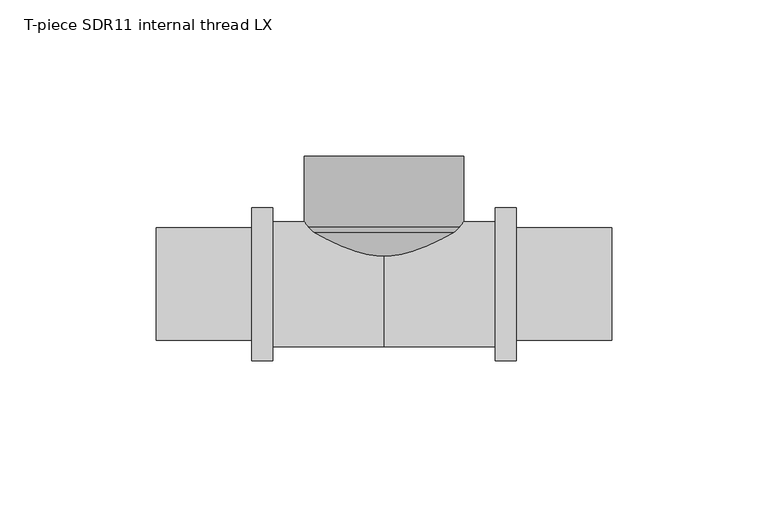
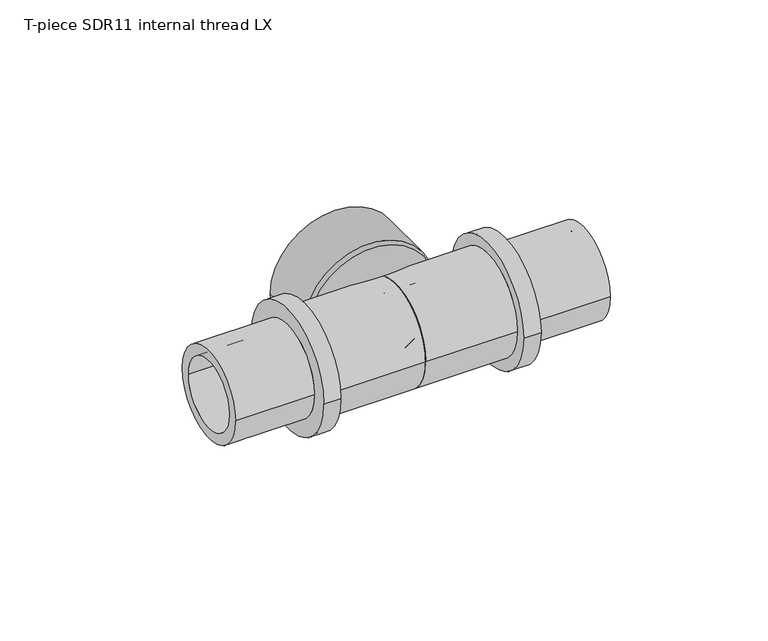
"""IFC4 building model written with IfcOpenShell, lengths in millimetres: pipe fitting geometry, T-piece SDR11 internal thread LX : T-piece LX SDR11 internal LX."""

from ifc_helpers import new_model, si_unit, point, frame, origin, place, context, project, spatial, polyline, circle_curve, ellipse_curve, trimmed, source, transform, mapped, element, save
from ifc_brep_helpers import plane_surface, cylinder_surface, revolved_surface, advanced_brep


def t_piece_sdr11_internal_thread_lx_78944ef6(model_context):
    return source(origin(), model_context, "Body", "AdvancedBrep", [
        advanced_brep(
        [(19.95, 19.45, 0.0), (-19.95, 19.45, 0.0), (-19.95, 41.0, 0.0), (19.95, 41.0, 0.0), (0.5, 0.0, 0.0), (-0.5, 0.0, 0.0), (24.7683856, 16.4195003, 0.0), (-24.7683856, 16.4195003, 0.0), (-8.3488853, 0.0, 0.0), (8.3488853, 0.0, 0.0), (25.5, 18.1857737, 0.0), (-25.5, 18.1857737, 0.0), (25.5, 41.0, 0.0), (-25.5, 41.0, 0.0)],
        [
            (0, 1, circle_curve(frame((0.0, 19.45, 0.0), z_axis=(0.0, -1.0, 0.0), x_axis=(-1.0, 0.0, 0.0)), 19.95)),
            (1, 2),
            (2, 3, circle_curve(frame((0.0, 41.0, 0.0), z_axis=(0.0, 1.0, 0.0), x_axis=(-1.0, 0.0, 0.0)), 19.95)),
            (3, 0),
            (4, 5, circle_curve(frame((0.0, 0.0, 0.0), z_axis=(0.0, -1.0, 0.0), x_axis=(-1.0, 0.0, 0.0)), 0.5)),
            (5, 1),
            (0, 4),
            (6, 7, circle_curve(frame((0.0, 16.4195003, 0.0), z_axis=(0.0, -1.0, 0.0), x_axis=(-1.0, 0.0, 0.0)), 24.7683856)),
            (7, 8),
            (8, 9, circle_curve(frame((0.0, 0.0, 0.0), z_axis=(0.0, 1.0, 0.0), x_axis=(-1.0, 0.0, 0.0)), 8.3488853)),
            (9, 6),
            (10, 11, circle_curve(frame((0.0, 18.1857737, 0.0), z_axis=(0.0, -1.0, 0.0), x_axis=(-1.0, 0.0, 0.0)), 25.5)),
            (11, 7, circle_curve(frame((-19.95, 19.45, 0.0), z_axis=(0.0, 0.0, 1.0), x_axis=(0.0, 1.0, 0.0)), 5.6921673)),
            (6, 10, circle_curve(frame((19.95, 19.45, 0.0), z_axis=(0.0, 0.0, 1.0), x_axis=(0.0, 1.0, 0.0)), 5.6921673)),
            (12, 13, circle_curve(frame((0.0, 41.0, 0.0), z_axis=(0.0, -1.0, 0.0), x_axis=(-1.0, 0.0, 0.0)), 25.5)),
            (13, 11),
            (10, 12),
            (12, 13, circle_curve(frame((0.0, 41.0, 0.0), z_axis=(0.0, 1.0, 0.0), x_axis=(1.0, 0.0, 0.0)), 25.5)),
            (2, 3, circle_curve(frame((0.0, 41.0, 0.0), z_axis=(0.0, -1.0, 0.0), x_axis=(1.0, 0.0, 0.0)), 19.95)),
            (1, 0, circle_curve(frame((0.0, 19.45, 0.0), z_axis=(0.0, -1.0, 0.0), x_axis=(1.0, 0.0, 0.0)), 19.95)),
            (5, 4, circle_curve(frame((0.0, 0.0, 0.0), z_axis=(0.0, -1.0, 0.0), x_axis=(1.0, 0.0, 0.0)), 0.5)),
            (8, 9, circle_curve(frame((0.0, 0.0, 0.0), z_axis=(0.0, -1.0, 0.0), x_axis=(1.0, 0.0, 0.0)), 8.3488853)),
            (7, 6, circle_curve(frame((0.0, 16.4195003, 0.0), z_axis=(0.0, -1.0, 0.0), x_axis=(1.0, 0.0, 0.0)), 24.7683856)),
            (11, 10, circle_curve(frame((0.0, 18.1857737, 0.0), z_axis=(0.0, -1.0, 0.0), x_axis=(1.0, 0.0, 0.0)), 25.5)),
        ],
        [
            revolved_surface(polyline([(-19.95, 41.0, 0.0), (-19.95, 19.45, 0.0)]), (0.0, 0.0, 0.0), (0.0, 1.0, 0.0)),
            revolved_surface(polyline([(-19.95, 19.45, 0.0), (-0.5, 0.0, 0.0)]), (0.0, 0.0, 0.0), (0.0, 1.0, 0.0)),
            revolved_surface(polyline([(-8.3488853, 0.0, 0.0), (-24.7683856, 16.4195003, 0.0)]), (0.0, 0.0, 0.0), (0.0, 1.0, 0.0)),
            revolved_surface(trimmed(ellipse_curve(frame((-19.95, 19.45, 0.0), z_axis=(0.0, 0.0, -1.0), x_axis=(0.0, 1.0, 0.0)), 5.6921673, 5.6921673), [point((-24.7683856, 16.4195003, 0.0))], [point((-25.5, 18.1857737, 0.0))], True, "CARTESIAN"), (0.0, 0.0, 0.0), (0.0, 1.0, 0.0)),
            cylinder_surface(frame((0.0, 0.0, 0.0), z_axis=(0.0, 1.0, 0.0), x_axis=(-1.0, 0.0, 0.0)), 25.5),
            plane_surface(frame((0.0, 41.0, 0.0), z_axis=(0.0, 1.0, 0.0), x_axis=(1.0, 0.0, 0.0))),
            revolved_surface(polyline([(19.95, 41.0, 0.0), (19.95, 19.45, 0.0)]), (0.0, 0.0, 0.0), (0.0, 1.0, 0.0)),
            revolved_surface(polyline([(19.95, 19.45, 0.0), (0.5, 0.0, 0.0)]), (0.0, 0.0, 0.0), (0.0, 1.0, 0.0)),
            plane_surface(frame((0.0, 0.0, 0.0), z_axis=(0.0, -1.0, 0.0), x_axis=(1.0, 0.0, 0.0))),
            revolved_surface(polyline([(8.3488853, 0.0, 0.0), (24.7683856, 16.4195003, 0.0)]), (0.0, 0.0, 0.0), (0.0, 1.0, 0.0)),
            revolved_surface(trimmed(ellipse_curve(frame((19.95, 19.45, 0.0), z_axis=(0.0, 0.0, 1.0), x_axis=(0.0, 1.0, 0.0)), 5.6921673, 5.6921673), [point((24.7683856, 16.4195003, 0.0))], [point((25.5, 18.1857737, 0.0))], True, "CARTESIAN"), (0.0, 0.0, 0.0), (0.0, 1.0, 0.0)),
            cylinder_surface(frame((0.0, 0.0, 0.0), z_axis=(0.0, 1.0, 0.0), x_axis=(1.0, 0.0, 0.0)), 25.5),
        ],
        [
            (0, [[1, 2, 3, 4]]),
            (1, [[5, 6, -1, 7]]),
            (2, [[8, 9, 10, 11]]),
            (3, [[12, 13, -8, 14]]),
            (4, [[15, 16, -12, 17]]),
            (5, [[18, -15], [19, -3]]),
            (6, [[20, -4, -19, -2]]),
            (7, [[21, -7, -20, -6]]),
            (8, [[22, -10], [-21, -5]]),
            (9, [[23, -11, -22, -9]]),
            (10, [[24, -14, -23, -13]]),
            (11, [[-18, -17, -24, -16]]),
        ],
    ),
        advanced_brep(
        [(42.3, 24.5, 0.0), (42.3, -24.5, 0.0), (35.7, -24.5, 0.0), (35.7, 24.5, 0.0), (73.0, 18.0, 0.0), (73.0, -18.0, 0.0), (42.3, -18.0, 0.0), (42.3, 18.0, 0.0), (0.0, 13.75, 0.0), (0.0, -13.75, 0.0), (73.0, -13.75, 0.0), (73.0, 13.75, 0.0), (35.7, 20.0, 0.0), (35.7, -20.0, 0.0), (0.0, -20.0, 0.0), (0.0, 20.0, 0.0)],
        [
            (0, 1, circle_curve(frame((42.3, 0.0, 0.0), z_axis=(-1.0, 0.0, 0.0), x_axis=(0.0, -1.0, 0.0)), 24.5)),
            (1, 2),
            (2, 3, circle_curve(frame((35.7, 0.0, 0.0), z_axis=(1.0, 0.0, 0.0), x_axis=(0.0, -1.0, 0.0)), 24.5)),
            (3, 0),
            (4, 5, circle_curve(frame((73.0, 0.0, 0.0), z_axis=(-1.0, 0.0, 0.0), x_axis=(0.0, -1.0, 0.0)), 18.0)),
            (5, 6),
            (6, 7, circle_curve(frame((42.3, 0.0, 0.0), z_axis=(1.0, 0.0, 0.0), x_axis=(0.0, -1.0, 0.0)), 18.0)),
            (7, 4),
            (8, 9, circle_curve(frame((0.0, 0.0, 0.0), z_axis=(-1.0, 0.0, 0.0), x_axis=(0.0, -1.0, 0.0)), 13.75)),
            (9, 10),
            (10, 11, circle_curve(frame((73.0, 0.0, 0.0), z_axis=(1.0, 0.0, 0.0), x_axis=(0.0, -1.0, 0.0)), 13.75)),
            (11, 8),
            (12, 13, circle_curve(frame((35.7, 0.0, 0.0), z_axis=(-1.0, 0.0, 0.0), x_axis=(0.0, -1.0, 0.0)), 20.0)),
            (13, 14),
            (14, 15, circle_curve(frame((0.0, 0.0, 0.0), z_axis=(1.0, 0.0, 0.0), x_axis=(0.0, -1.0, 0.0)), 20.0)),
            (15, 12),
            (1, 0, circle_curve(frame((42.3, 0.0, 0.0), z_axis=(-1.0, 0.0, 0.0), x_axis=(0.0, 1.0, 0.0)), 24.5)),
            (3, 2, circle_curve(frame((35.7, 0.0, 0.0), z_axis=(1.0, 0.0, 0.0), x_axis=(0.0, 1.0, 0.0)), 24.5)),
            (6, 7, circle_curve(frame((42.3, 0.0, 0.0), z_axis=(-1.0, 0.0, 0.0), x_axis=(0.0, 1.0, 0.0)), 18.0)),
            (5, 4, circle_curve(frame((73.0, 0.0, 0.0), z_axis=(-1.0, 0.0, 0.0), x_axis=(0.0, 1.0, 0.0)), 18.0)),
            (10, 11, circle_curve(frame((73.0, 0.0, 0.0), z_axis=(-1.0, 0.0, 0.0), x_axis=(0.0, 1.0, 0.0)), 13.75)),
            (9, 8, circle_curve(frame((0.0, 0.0, 0.0), z_axis=(-1.0, 0.0, 0.0), x_axis=(0.0, 1.0, 0.0)), 13.75)),
            (14, 15, circle_curve(frame((0.0, 0.0, 0.0), z_axis=(-1.0, 0.0, 0.0), x_axis=(0.0, 1.0, 0.0)), 20.0)),
            (13, 12, circle_curve(frame((35.7, 0.0, 0.0), z_axis=(-1.0, 0.0, 0.0), x_axis=(0.0, 1.0, 0.0)), 20.0)),
        ],
        [
            cylinder_surface(frame((0.0, 0.0, 0.0), z_axis=(1.0, 0.0, 0.0), x_axis=(0.0, -1.0, 0.0)), 24.5),
            cylinder_surface(frame((0.0, 0.0, 0.0), z_axis=(1.0, 0.0, 0.0), x_axis=(0.0, -1.0, 0.0)), 18.0),
            revolved_surface(polyline([(73.0, -13.75, 0.0), (0.0, -13.75, 0.0)]), (0.0, 0.0, 0.0), (1.0, 0.0, 0.0)),
            cylinder_surface(frame((0.0, 0.0, 0.0), z_axis=(1.0, 0.0, 0.0), x_axis=(0.0, -1.0, 0.0)), 20.0),
            cylinder_surface(frame((0.0, 0.0, 0.0), z_axis=(1.0, 0.0, 0.0), x_axis=(0.0, 1.0, 0.0)), 24.5),
            plane_surface(frame((42.3, 0.0, 0.0), z_axis=(1.0, 0.0, 0.0), x_axis=(0.0, 1.0, 0.0))),
            cylinder_surface(frame((0.0, 0.0, 0.0), z_axis=(1.0, 0.0, 0.0), x_axis=(0.0, 1.0, 0.0)), 18.0),
            plane_surface(frame((73.0, 0.0, 0.0), z_axis=(1.0, 0.0, 0.0), x_axis=(0.0, 1.0, 0.0))),
            revolved_surface(polyline([(73.0, 13.75, 0.0), (0.0, 13.75, 0.0)]), (0.0, 0.0, 0.0), (1.0, 0.0, 0.0)),
            plane_surface(frame((0.0, 0.0, 0.0), z_axis=(-1.0, 0.0, 0.0), x_axis=(0.0, 1.0, 0.0))),
            cylinder_surface(frame((0.0, 0.0, 0.0), z_axis=(1.0, 0.0, 0.0), x_axis=(0.0, 1.0, 0.0)), 20.0),
            plane_surface(frame((35.7, 0.0, 0.0), z_axis=(-1.0, 0.0, 0.0), x_axis=(0.0, 1.0, 0.0))),
        ],
        [
            (0, [[1, 2, 3, 4]]),
            (1, [[5, 6, 7, 8]]),
            (2, [[9, 10, 11, 12]]),
            (3, [[13, 14, 15, 16]]),
            (4, [[17, -4, 18, -2]]),
            (5, [[-17, -1], [19, -7]]),
            (6, [[20, -8, -19, -6]]),
            (7, [[-20, -5], [21, -11]]),
            (8, [[22, -12, -21, -10]]),
            (9, [[23, -15], [-22, -9]]),
            (10, [[24, -16, -23, -14]]),
            (11, [[-18, -3], [-24, -13]]),
        ],
    ),
        advanced_brep(
        [(0.0, 20.0, 0.0), (0.0, -20.0, 0.0), (-35.7, -20.0, 0.0), (-35.7, 20.0, 0.0), (-73.0, 13.75, 0.0), (-73.0, -13.75, 0.0), (0.0, -13.75, 0.0), (0.0, 13.75, 0.0), (-42.3, 18.0, 0.0), (-42.3, -18.0, 0.0), (-73.0, -18.0, 0.0), (-73.0, 18.0, 0.0), (-35.7, 24.5, 0.0), (-35.7, -24.5, 0.0), (-42.3, -24.5, 0.0), (-42.3, 24.5, 0.0)],
        [
            (0, 1, circle_curve(frame((0.0, 0.0, 0.0), z_axis=(-1.0, 0.0, 0.0), x_axis=(0.0, -1.0, 0.0)), 20.0)),
            (1, 2),
            (2, 3, circle_curve(frame((-35.7, 0.0, 0.0), z_axis=(1.0, 0.0, 0.0), x_axis=(0.0, -1.0, 0.0)), 20.0)),
            (3, 0),
            (4, 5, circle_curve(frame((-73.0, 0.0, 0.0), z_axis=(-1.0, 0.0, 0.0), x_axis=(0.0, -1.0, 0.0)), 13.75)),
            (5, 6),
            (6, 7, circle_curve(frame((0.0, 0.0, 0.0), z_axis=(1.0, 0.0, 0.0), x_axis=(0.0, -1.0, 0.0)), 13.75)),
            (7, 4),
            (8, 9, circle_curve(frame((-42.3, 0.0, 0.0), z_axis=(-1.0, 0.0, 0.0), x_axis=(0.0, -1.0, 0.0)), 18.0)),
            (9, 10),
            (10, 11, circle_curve(frame((-73.0, 0.0, 0.0), z_axis=(1.0, 0.0, 0.0), x_axis=(0.0, -1.0, 0.0)), 18.0)),
            (11, 8),
            (12, 13, circle_curve(frame((-35.7, 0.0, 0.0), z_axis=(-1.0, 0.0, 0.0), x_axis=(0.0, -1.0, 0.0)), 24.5)),
            (13, 14),
            (14, 15, circle_curve(frame((-42.3, 0.0, 0.0), z_axis=(1.0, 0.0, 0.0), x_axis=(0.0, -1.0, 0.0)), 24.5)),
            (15, 12),
            (12, 13, circle_curve(frame((-35.7, 0.0, 0.0), z_axis=(1.0, 0.0, 0.0), x_axis=(0.0, 1.0, 0.0)), 24.5)),
            (2, 3, circle_curve(frame((-35.7, 0.0, 0.0), z_axis=(-1.0, 0.0, 0.0), x_axis=(0.0, 1.0, 0.0)), 20.0)),
            (1, 0, circle_curve(frame((0.0, 0.0, 0.0), z_axis=(-1.0, 0.0, 0.0), x_axis=(0.0, 1.0, 0.0)), 20.0)),
            (6, 7, circle_curve(frame((0.0, 0.0, 0.0), z_axis=(-1.0, 0.0, 0.0), x_axis=(0.0, 1.0, 0.0)), 13.75)),
            (5, 4, circle_curve(frame((-73.0, 0.0, 0.0), z_axis=(-1.0, 0.0, 0.0), x_axis=(0.0, 1.0, 0.0)), 13.75)),
            (10, 11, circle_curve(frame((-73.0, 0.0, 0.0), z_axis=(-1.0, 0.0, 0.0), x_axis=(0.0, 1.0, 0.0)), 18.0)),
            (9, 8, circle_curve(frame((-42.3, 0.0, 0.0), z_axis=(-1.0, 0.0, 0.0), x_axis=(0.0, 1.0, 0.0)), 18.0)),
            (14, 15, circle_curve(frame((-42.3, 0.0, 0.0), z_axis=(-1.0, 0.0, 0.0), x_axis=(0.0, 1.0, 0.0)), 24.5)),
        ],
        [
            cylinder_surface(frame((0.0, 0.0, 0.0), z_axis=(1.0, 0.0, 0.0), x_axis=(0.0, -1.0, 0.0)), 20.0),
            revolved_surface(polyline([(0.0, -13.75, 0.0), (-73.0, -13.75, 0.0)]), (0.0, 0.0, 0.0), (1.0, 0.0, 0.0)),
            cylinder_surface(frame((0.0, 0.0, 0.0), z_axis=(1.0, 0.0, 0.0), x_axis=(0.0, -1.0, 0.0)), 18.0),
            cylinder_surface(frame((0.0, 0.0, 0.0), z_axis=(1.0, 0.0, 0.0), x_axis=(0.0, -1.0, 0.0)), 24.5),
            plane_surface(frame((-35.7, 0.0, 0.0), z_axis=(1.0, 0.0, 0.0), x_axis=(0.0, 1.0, 0.0))),
            cylinder_surface(frame((0.0, 0.0, 0.0), z_axis=(1.0, 0.0, 0.0), x_axis=(0.0, 1.0, 0.0)), 20.0),
            plane_surface(frame((0.0, 0.0, 0.0), z_axis=(1.0, 0.0, 0.0), x_axis=(0.0, 1.0, 0.0))),
            revolved_surface(polyline([(0.0, 13.75, 0.0), (-73.0, 13.75, 0.0)]), (0.0, 0.0, 0.0), (1.0, 0.0, 0.0)),
            plane_surface(frame((-73.0, 0.0, 0.0), z_axis=(-1.0, 0.0, 0.0), x_axis=(0.0, 1.0, 0.0))),
            cylinder_surface(frame((0.0, 0.0, 0.0), z_axis=(1.0, 0.0, 0.0), x_axis=(0.0, 1.0, 0.0)), 18.0),
            plane_surface(frame((-42.3, 0.0, 0.0), z_axis=(-1.0, 0.0, 0.0), x_axis=(0.0, 1.0, 0.0))),
            cylinder_surface(frame((0.0, 0.0, 0.0), z_axis=(1.0, 0.0, 0.0), x_axis=(0.0, 1.0, 0.0)), 24.5),
        ],
        [
            (0, [[1, 2, 3, 4]]),
            (1, [[5, 6, 7, 8]]),
            (2, [[9, 10, 11, 12]]),
            (3, [[13, 14, 15, 16]]),
            (4, [[17, -13], [18, -3]]),
            (5, [[19, -4, -18, -2]]),
            (6, [[-19, -1], [20, -7]]),
            (7, [[21, -8, -20, -6]]),
            (8, [[22, -11], [-21, -5]]),
            (9, [[23, -12, -22, -10]]),
            (10, [[24, -15], [-23, -9]]),
            (11, [[-17, -16, -24, -14]]),
        ],
    ),
    ])


if __name__ == "__main__":
    model = new_model("IFC4")
    model_context = context("Model", 3, world=origin())
    ifc_project = project(units=[si_unit("LENGTHUNIT", "METRE", prefix="MILLI")], contexts=[model_context])
    site = spatial("IfcSite", under=ifc_project)
    building = spatial("IfcBuilding", under=site)
    placement = place(None, origin())
    t_piece_sdr11_internal_thread_lx_shape = t_piece_sdr11_internal_thread_lx_78944ef6(model_context)
    element("IfcPipeFitting", 1, ObjectType="T-piece SDR11 internal thread LX : T-piece LX SDR11 internal LX", at=placement, inside=building, context=model_context, shape_type="MappedRepresentation", body=[
        mapped(t_piece_sdr11_internal_thread_lx_shape, transform((0.0, 0.0, 0.0), x_axis=(1.0, 0.0, 0.0), y_axis=(0.0, 1.0, 0.0), z_axis=(0.0, 0.0, 1.0))),
    ])
    save(model, "model.ifc")
